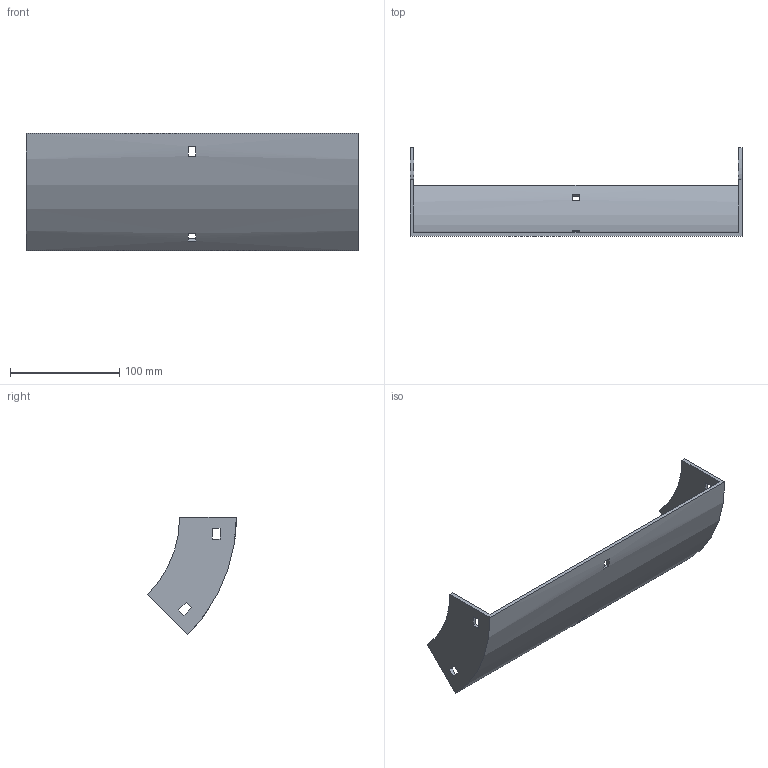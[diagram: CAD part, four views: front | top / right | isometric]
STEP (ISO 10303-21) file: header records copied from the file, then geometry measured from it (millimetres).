
FILE_DESCRIPTION (( 'STEP AP214' ), '1' );
FILE_NAME ('31B1B300.step', '2025-02-21T09:46:42', ( '' ), ( '' ), 'SwSTEP 2.0', 'SolidWorks 2023', '' );
FILE_SCHEMA (( 'AUTOMOTIVE_DESIGN' ));
Length unit declared in the file: millimetre
Products named in the file (1): 31B1B300
Bounding box: 304 x 81.29 x 107.48 mm (x, y, z)
Volume: 157296.8 mm3; surface area: 93944.6 mm2
Topology: 1 solids, 1 shells, 34 faces, 96 edges, 64 vertices
Faces by surface type: plane 30, cylinder 4
Entity records: 1143 total; most frequent: CARTESIAN_POINT 195, ORIENTED_EDGE 192, DIRECTION 182, EDGE_CURVE 96, LINE 80, VECTOR 80, VERTEX_POINT 64, AXIS2_PLACEMENT_3D 51
